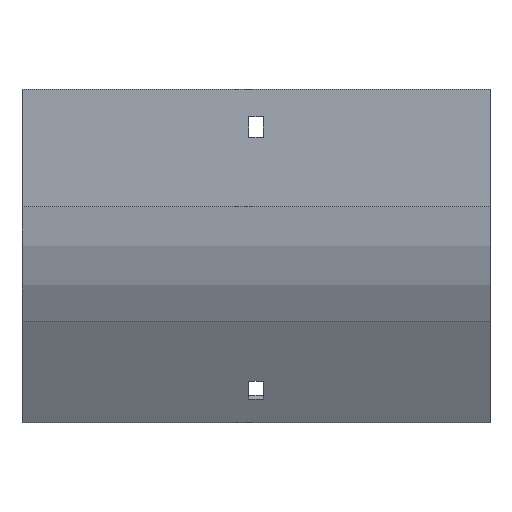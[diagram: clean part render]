
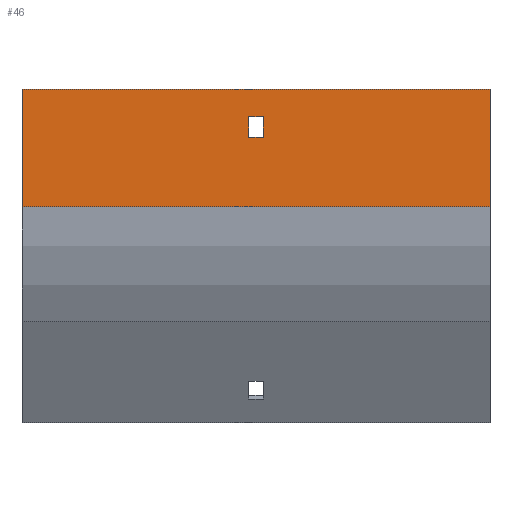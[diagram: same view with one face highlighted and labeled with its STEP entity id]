
A CAD part, front view. The second image highlights one B-rep face of the part: STEP entity #46.
In plain terms, the highlighted planar face has unit normal (0, -1, 0).
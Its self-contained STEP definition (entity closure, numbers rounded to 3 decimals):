
#23 = VERTEX_POINT ( 'NONE', #651 ) ;
#45 = CARTESIAN_POINT ( 'NONE',  ( 3.25, -79., -21. ) ) ;
#46 = ADVANCED_FACE ( 'NONE', ( #426, #1023 ), #880, .F. ) ;
#50 = CARTESIAN_POINT ( 'NONE',  ( -3.25, -79., -21. ) ) ;
#83 = DIRECTION ( 'NONE',  ( 0., 1., 0. ) ) ;
#141 = DIRECTION ( 'NONE',  ( -1., 0., 0. ) ) ;
#148 = CARTESIAN_POINT ( 'NONE',  ( 102., -79., -51.168 ) ) ;
#171 = LINE ( 'NONE', #1824, #570 ) ;
#234 = EDGE_CURVE ( 'NONE', #23, #446, #616, .T. ) ;
#253 = CARTESIAN_POINT ( 'NONE',  ( 102., -79., -51.168 ) ) ;
#254 = VECTOR ( 'NONE', #1417, 1000. ) ;
#260 = VECTOR ( 'NONE', #1501, 1000. ) ;
#388 = LINE ( 'NONE', #989, #1194 ) ;
#391 = LINE ( 'NONE', #50, #254 ) ;
#406 = VECTOR ( 'NONE', #141, 1000. ) ;
#426 = FACE_BOUND ( 'NONE', #543, .T. ) ;
#441 = EDGE_CURVE ( 'NONE', #588, #1775, #906, .T. ) ;
#446 = VERTEX_POINT ( 'NONE', #920 ) ;
#448 = DIRECTION ( 'NONE',  ( 0., 0., -1. ) ) ;
#463 = ORIENTED_EDGE ( 'NONE', *, *, #1152, .T. ) ;
#510 = AXIS2_PLACEMENT_3D ( 'NONE', #253, #83, #1137 ) ;
#543 = EDGE_LOOP ( 'NONE', ( #1851, #463, #1155, #1546 ) ) ;
#570 = VECTOR ( 'NONE', #1812, 1000. ) ;
#588 = VERTEX_POINT ( 'NONE', #1917 ) ;
#616 = LINE ( 'NONE', #1797, #1931 ) ;
#627 = VECTOR ( 'NONE', #1702, 1000. ) ;
#631 = VECTOR ( 'NONE', #811, 1000. ) ;
#651 = CARTESIAN_POINT ( 'NONE',  ( -102., -79., 0. ) ) ;
#678 = LINE ( 'NONE', #1714, #627 ) ;
#760 = VERTEX_POINT ( 'NONE', #785 ) ;
#785 = CARTESIAN_POINT ( 'NONE',  ( -3.25, -79., -21. ) ) ;
#811 = DIRECTION ( 'NONE',  ( 0., 0., -1. ) ) ;
#880 = PLANE ( 'NONE',  #510 ) ;
#906 = LINE ( 'NONE', #1082, #260 ) ;
#920 = CARTESIAN_POINT ( 'NONE',  ( -102., -79., -51.168 ) ) ;
#970 = VERTEX_POINT ( 'NONE', #1558 ) ;
#989 = CARTESIAN_POINT ( 'NONE',  ( -3.25, -79., -21. ) ) ;
#991 = ORIENTED_EDGE ( 'NONE', *, *, #441, .F. ) ;
#998 = EDGE_CURVE ( 'NONE', #588, #23, #171, .T. ) ;
#1023 = FACE_OUTER_BOUND ( 'NONE', #1527, .T. ) ;
#1082 = CARTESIAN_POINT ( 'NONE',  ( 102., -79., -51.168 ) ) ;
#1097 = ORIENTED_EDGE ( 'NONE', *, *, #234, .T. ) ;
#1100 = CARTESIAN_POINT ( 'NONE',  ( -3.25, -79., -12. ) ) ;
#1130 = VERTEX_POINT ( 'NONE', #1100 ) ;
#1137 = DIRECTION ( 'NONE',  ( 0., 0., 1. ) ) ;
#1149 = ORIENTED_EDGE ( 'NONE', *, *, #1273, .F. ) ;
#1152 = EDGE_CURVE ( 'NONE', #760, #1130, #388, .T. ) ;
#1155 = ORIENTED_EDGE ( 'NONE', *, *, #1159, .T. ) ;
#1159 = EDGE_CURVE ( 'NONE', #1130, #970, #678, .T. ) ;
#1167 = ORIENTED_EDGE ( 'NONE', *, *, #998, .T. ) ;
#1192 = LINE ( 'NONE', #148, #406 ) ;
#1194 = VECTOR ( 'NONE', #1733, 1000. ) ;
#1273 = EDGE_CURVE ( 'NONE', #1775, #446, #1192, .T. ) ;
#1370 = LINE ( 'NONE', #45, #631 ) ;
#1417 = DIRECTION ( 'NONE',  ( -1., 0., 0. ) ) ;
#1434 = CARTESIAN_POINT ( 'NONE',  ( 3.25, -79., -21. ) ) ;
#1501 = DIRECTION ( 'NONE',  ( 0., 0., -1. ) ) ;
#1527 = EDGE_LOOP ( 'NONE', ( #1097, #1149, #991, #1167 ) ) ;
#1529 = EDGE_CURVE ( 'NONE', #1915, #760, #391, .T. ) ;
#1546 = ORIENTED_EDGE ( 'NONE', *, *, #1876, .T. ) ;
#1558 = CARTESIAN_POINT ( 'NONE',  ( 3.25, -79., -12. ) ) ;
#1702 = DIRECTION ( 'NONE',  ( 1., 0., 0. ) ) ;
#1714 = CARTESIAN_POINT ( 'NONE',  ( -3.25, -79., -12. ) ) ;
#1733 = DIRECTION ( 'NONE',  ( 0., 0., 1. ) ) ;
#1775 = VERTEX_POINT ( 'NONE', #1908 ) ;
#1797 = CARTESIAN_POINT ( 'NONE',  ( -102., -79., -51.168 ) ) ;
#1812 = DIRECTION ( 'NONE',  ( -1., 0., 0. ) ) ;
#1824 = CARTESIAN_POINT ( 'NONE',  ( 102., -79., 0. ) ) ;
#1851 = ORIENTED_EDGE ( 'NONE', *, *, #1529, .T. ) ;
#1876 = EDGE_CURVE ( 'NONE', #970, #1915, #1370, .T. ) ;
#1908 = CARTESIAN_POINT ( 'NONE',  ( 102., -79., -51.168 ) ) ;
#1915 = VERTEX_POINT ( 'NONE', #1434 ) ;
#1917 = CARTESIAN_POINT ( 'NONE',  ( 102., -79., 0. ) ) ;
#1931 = VECTOR ( 'NONE', #448, 1000. ) ;
